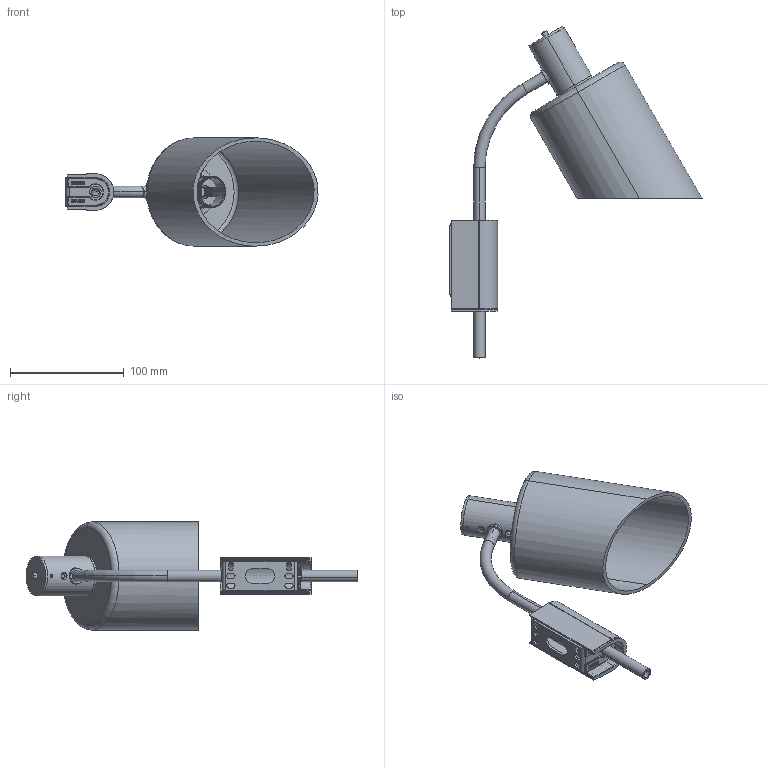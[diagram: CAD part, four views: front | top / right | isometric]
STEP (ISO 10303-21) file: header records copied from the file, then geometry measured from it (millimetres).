
FILE_DESCRIPTION (( 'STEP AP203' ), '1' );
FILE_NAME ('LDB wall_As.STEP', '2023-09-29T09:34:06', ( '' ), ( '' ), 'SwSTEP 2.0', 'SolidWorks 2016', '' );
FILE_SCHEMA (( 'CONFIG_CONTROL_DESIGN' ));
Length unit declared in the file: millimetre
Products named in the file (15): 061LDB200100_Vetro Lampe De Bureau; ARDITI_CN-466_GHIERA_E14_ART.141; ARDITI_PTL_CAMICIA FILETTATA-E14-PF-131-1-60S_FISS-2_VITI; Tubo corpo; LDB wall_As; Interruttore openwise; Staffa muro; Tubo corpo con inserti_As; Tubo testa; 052COM703100_TAPPO INF COVER STAFFA MURO; Tubo inferiore; Ghiera tornita; Tappo testa; 051LDB700700_Cover staffa a muro; Raccordo testa
Assembly tree (14 placements, depth 3):
  LDB wall_As
    Tubo corpo con inserti_As
      Tubo corpo
      Raccordo testa
    Tubo testa
    Tappo testa
    061LDB200100_Vetro Lampe De Bureau
    Ghiera tornita
    Interruttore openwise
    ARDITI_CN-466_GHIERA_E14_ART.141
    ARDITI_PTL_CAMICIA FILETTATA-E14-PF-131-1-60S_FISS-2_VITI
    Staffa muro
    051LDB700700_Cover staffa a muro
    052COM703100_TAPPO INF COVER STAFFA MURO
    Tubo inferiore
Bounding box: 221.08 x 291.25 x 95 mm (x, y, z)
Volume: 175662.1 mm3; surface area: 145833.9 mm2
Topology: 13 solids, 13 shells, 1311 faces, 3485 edges, 2284 vertices
Faces by surface type: plane 564, bspline 541, cylinder 145, cone 47, torus 13, sphere 1
Entity records: 151337 total; most frequent: CARTESIAN_POINT 122394, ORIENTED_EDGE 6964, DIRECTION 3516, EDGE_CURVE 3482, VERTEX_POINT 2282, B_SPLINE_CURVE_WITH_KNOTS 1838, EDGE_LOOP 1480, ADVANCED_FACE 1311
